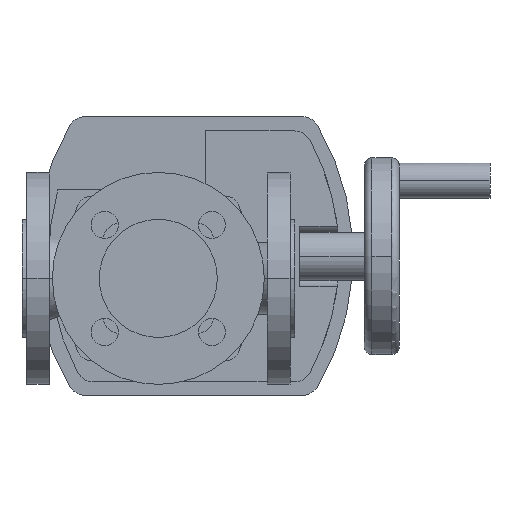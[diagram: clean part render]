
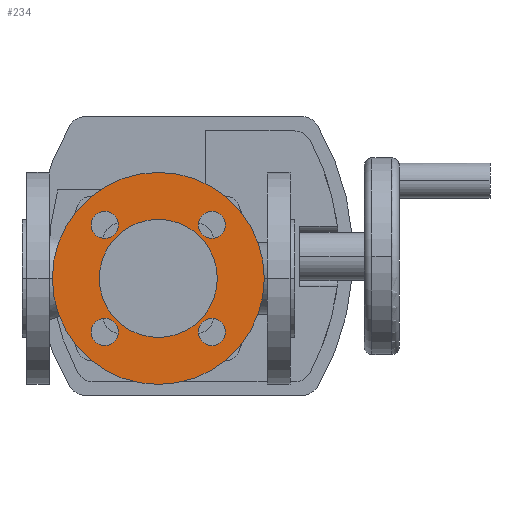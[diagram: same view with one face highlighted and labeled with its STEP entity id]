
A CAD part, front view. The second image highlights one B-rep face of the part: STEP entity #234.
In plain terms, the highlighted planar face has unit normal (0, -1, 0).
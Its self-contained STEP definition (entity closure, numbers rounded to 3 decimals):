
#234 = ADVANCED_FACE( '', ( #605, #606, #607, #608, #609, #610 ), #611, .F. );
#605 = FACE_BOUND( '', #1137, .T. );
#606 = FACE_BOUND( '', #1138, .T. );
#607 = FACE_BOUND( '', #1139, .T. );
#608 = FACE_BOUND( '', #1140, .T. );
#609 = FACE_OUTER_BOUND( '', #1141, .T. );
#610 = FACE_BOUND( '', #1142, .T. );
#611 = PLANE( '', #1143 );
#1137 = EDGE_LOOP( '', ( #2285, #2286 ) );
#1138 = EDGE_LOOP( '', ( #2287, #2288 ) );
#1139 = EDGE_LOOP( '', ( #2289, #2290 ) );
#1140 = EDGE_LOOP( '', ( #2291, #2292 ) );
#1141 = EDGE_LOOP( '', ( #2293, #2294 ) );
#1142 = EDGE_LOOP( '', ( #2295, #2296 ) );
#1143 = AXIS2_PLACEMENT_3D( '', #2297, #2298, #2299 );
#2285 = ORIENTED_EDGE( '', *, *, #3497, .T. );
#2286 = ORIENTED_EDGE( '', *, *, #3498, .T. );
#2287 = ORIENTED_EDGE( '', *, *, #3493, .T. );
#2288 = ORIENTED_EDGE( '', *, *, #3500, .T. );
#2289 = ORIENTED_EDGE( '', *, *, #3489, .T. );
#2290 = ORIENTED_EDGE( '', *, *, #3502, .T. );
#2291 = ORIENTED_EDGE( '', *, *, #3485, .T. );
#2292 = ORIENTED_EDGE( '', *, *, #3504, .T. );
#2293 = ORIENTED_EDGE( '', *, *, #3386, .F. );
#2294 = ORIENTED_EDGE( '', *, *, #3661, .F. );
#2295 = ORIENTED_EDGE( '', *, *, #3384, .F. );
#2296 = ORIENTED_EDGE( '', *, *, #3662, .F. );
#2297 = CARTESIAN_POINT( '', ( 90., -77., 0. ) );
#2298 = DIRECTION( '', ( 0., 1., 0. ) );
#2299 = DIRECTION( '', ( 0., 0., 1. ) );
#3384 = EDGE_CURVE( '', #4013, #4009, #4015, .T. );
#3386 = EDGE_CURVE( '', #4016, #4019, #4020, .T. );
#3485 = EDGE_CURVE( '', #4205, #4209, #4211, .T. );
#3489 = EDGE_CURVE( '', #4213, #4217, #4219, .T. );
#3493 = EDGE_CURVE( '', #4221, #4225, #4227, .T. );
#3497 = EDGE_CURVE( '', #4229, #4233, #4235, .T. );
#3498 = EDGE_CURVE( '', #4233, #4229, #4236, .T. );
#3500 = EDGE_CURVE( '', #4225, #4221, #4238, .T. );
#3502 = EDGE_CURVE( '', #4217, #4213, #4240, .T. );
#3504 = EDGE_CURVE( '', #4209, #4205, #4242, .T. );
#3661 = EDGE_CURVE( '', #4019, #4016, #4475, .T. );
#3662 = EDGE_CURVE( '', #4009, #4013, #4476, .T. );
#4009 = VERTEX_POINT( '', #5150 );
#4013 = VERTEX_POINT( '', #5155 );
#4015 = CIRCLE( '', #5158, 39. );
#4016 = VERTEX_POINT( '', #5159 );
#4019 = VERTEX_POINT( '', #5163 );
#4020 = CIRCLE( '', #5164, 70. );
#4205 = VERTEX_POINT( '', #5492 );
#4209 = VERTEX_POINT( '', #5497 );
#4211 = CIRCLE( '', #5500, 9. );
#4213 = VERTEX_POINT( '', #5502 );
#4217 = VERTEX_POINT( '', #5507 );
#4219 = CIRCLE( '', #5510, 9. );
#4221 = VERTEX_POINT( '', #5512 );
#4225 = VERTEX_POINT( '', #5517 );
#4227 = CIRCLE( '', #5520, 9. );
#4229 = VERTEX_POINT( '', #5522 );
#4233 = VERTEX_POINT( '', #5527 );
#4235 = CIRCLE( '', #5530, 9. );
#4236 = CIRCLE( '', #5531, 9. );
#4238 = CIRCLE( '', #5533, 9. );
#4240 = CIRCLE( '', #5535, 9. );
#4242 = CIRCLE( '', #5537, 9. );
#4475 = CIRCLE( '', #5930, 70. );
#4476 = CIRCLE( '', #5931, 39. );
#5150 = CARTESIAN_POINT( '', ( 129., -77., 0. ) );
#5155 = CARTESIAN_POINT( '', ( 51., -77., 0. ) );
#5158 = AXIS2_PLACEMENT_3D( '', #6702, #6703, #6704 );
#5159 = CARTESIAN_POINT( '', ( 160., -77., 0. ) );
#5163 = CARTESIAN_POINT( '', ( 20., -77., 0. ) );
#5164 = AXIS2_PLACEMENT_3D( '', #6706, #6707, #6708 );
#5492 = CARTESIAN_POINT( '', ( 45.645, -77., -35.355 ) );
#5497 = CARTESIAN_POINT( '', ( 63.645, -77., -35.355 ) );
#5500 = AXIS2_PLACEMENT_3D( '', #6903, #6904, #6905 );
#5502 = CARTESIAN_POINT( '', ( 45.645, -77., 35.355 ) );
#5507 = CARTESIAN_POINT( '', ( 63.645, -77., 35.355 ) );
#5510 = AXIS2_PLACEMENT_3D( '', #6911, #6912, #6913 );
#5512 = CARTESIAN_POINT( '', ( 116.355, -77., 35.355 ) );
#5517 = CARTESIAN_POINT( '', ( 134.355, -77., 35.355 ) );
#5520 = AXIS2_PLACEMENT_3D( '', #6919, #6920, #6921 );
#5522 = CARTESIAN_POINT( '', ( 116.355, -77., -35.355 ) );
#5527 = CARTESIAN_POINT( '', ( 134.355, -77., -35.355 ) );
#5530 = AXIS2_PLACEMENT_3D( '', #6927, #6928, #6929 );
#5531 = AXIS2_PLACEMENT_3D( '', #6930, #6931, #6932 );
#5533 = AXIS2_PLACEMENT_3D( '', #6936, #6937, #6938 );
#5535 = AXIS2_PLACEMENT_3D( '', #6942, #6943, #6944 );
#5537 = AXIS2_PLACEMENT_3D( '', #6948, #6949, #6950 );
#5930 = AXIS2_PLACEMENT_3D( '', #7231, #7232, #7233 );
#5931 = AXIS2_PLACEMENT_3D( '', #7234, #7235, #7236 );
#6702 = CARTESIAN_POINT( '', ( 90., -77., 0. ) );
#6703 = DIRECTION( '', ( 0., -1., 0. ) );
#6704 = DIRECTION( '', ( 1., 0., 0. ) );
#6706 = CARTESIAN_POINT( '', ( 90., -77., 0. ) );
#6707 = DIRECTION( '', ( 0., 1., 0. ) );
#6708 = DIRECTION( '', ( 1., 0., 0. ) );
#6903 = CARTESIAN_POINT( '', ( 54.645, -77., -35.355 ) );
#6904 = DIRECTION( '', ( 0., 1., 0. ) );
#6905 = DIRECTION( '', ( -1., 0., 0. ) );
#6911 = CARTESIAN_POINT( '', ( 54.645, -77., 35.355 ) );
#6912 = DIRECTION( '', ( 0., 1., 0. ) );
#6913 = DIRECTION( '', ( -1., 0., 0. ) );
#6919 = CARTESIAN_POINT( '', ( 125.355, -77., 35.355 ) );
#6920 = DIRECTION( '', ( 0., 1., 0. ) );
#6921 = DIRECTION( '', ( -1., 0., 0. ) );
#6927 = CARTESIAN_POINT( '', ( 125.355, -77., -35.355 ) );
#6928 = DIRECTION( '', ( 0., 1., 0. ) );
#6929 = DIRECTION( '', ( -1., 0., 0. ) );
#6930 = CARTESIAN_POINT( '', ( 125.355, -77., -35.355 ) );
#6931 = DIRECTION( '', ( 0., 1., 0. ) );
#6932 = DIRECTION( '', ( -1., 0., 0. ) );
#6936 = CARTESIAN_POINT( '', ( 125.355, -77., 35.355 ) );
#6937 = DIRECTION( '', ( 0., 1., 0. ) );
#6938 = DIRECTION( '', ( -1., 0., 0. ) );
#6942 = CARTESIAN_POINT( '', ( 54.645, -77., 35.355 ) );
#6943 = DIRECTION( '', ( 0., 1., 0. ) );
#6944 = DIRECTION( '', ( -1., 0., 0. ) );
#6948 = CARTESIAN_POINT( '', ( 54.645, -77., -35.355 ) );
#6949 = DIRECTION( '', ( 0., 1., 0. ) );
#6950 = DIRECTION( '', ( -1., 0., 0. ) );
#7231 = CARTESIAN_POINT( '', ( 90., -77., 0. ) );
#7232 = DIRECTION( '', ( 0., 1., 0. ) );
#7233 = DIRECTION( '', ( 1., 0., 0. ) );
#7234 = CARTESIAN_POINT( '', ( 90., -77., 0. ) );
#7235 = DIRECTION( '', ( 0., -1., 0. ) );
#7236 = DIRECTION( '', ( 1., 0., 0. ) );
